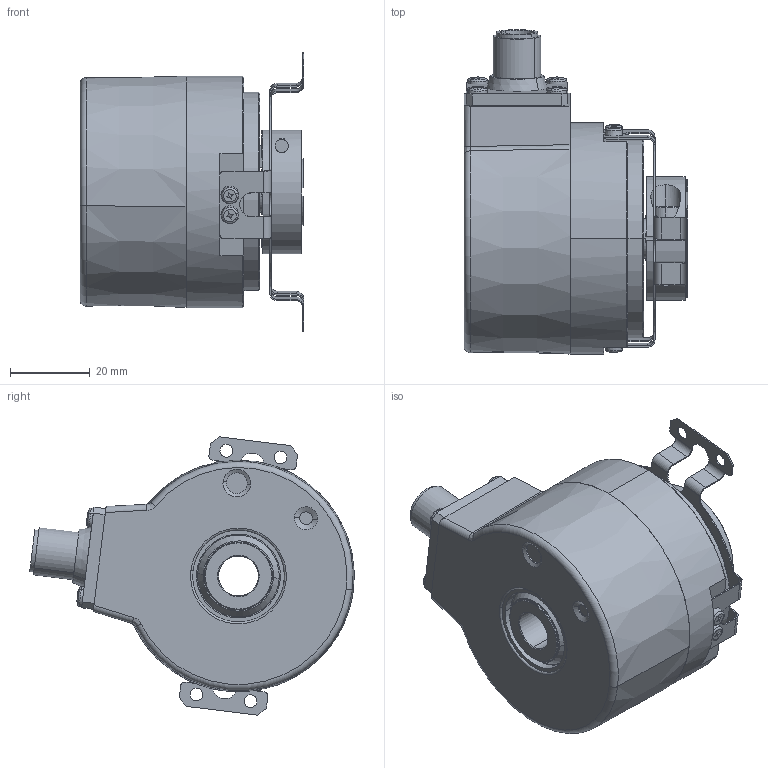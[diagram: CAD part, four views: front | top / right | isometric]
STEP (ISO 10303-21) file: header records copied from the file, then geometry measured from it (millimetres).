
FILE_DESCRIPTION (( 'STEP AP214' ), '1' );
FILE_NAME ('5834SIL.B3X6.XXXX.STEP', '2010-11-18T12:58:39', ( 'admin' ), ( 'Fritz Kübler GmbH' ), 'SwSTEP 2.0', 'SolidWorks 2009', '' );
FILE_SCHEMA (( 'AUTOMOTIVE_DESIGN' ));
Length unit declared in the file: millimetre
Products named in the file (1): 5834SIL.B3X6.XXXX
Bounding box: 56 x 81.25 x 69.69 mm (x, y, z)
Surface area: 26381.8 mm2 (no closed solid volume)
Topology: 0 solids, 28 shells, 486 faces, 1366 edges, 883 vertices
Faces by surface type: plane 231, cylinder 147, cone 52, torus 24, sphere 24, bspline 8
Entity records: 22110 total; most frequent: CARTESIAN_POINT 4200, DIRECTION 2779, ORIENTED_EDGE 2385, EDGE_CURVE 1334, AXIS2_PLACEMENT_3D 1038, VERTEX_POINT 867, VECTOR 703, LINE 703
